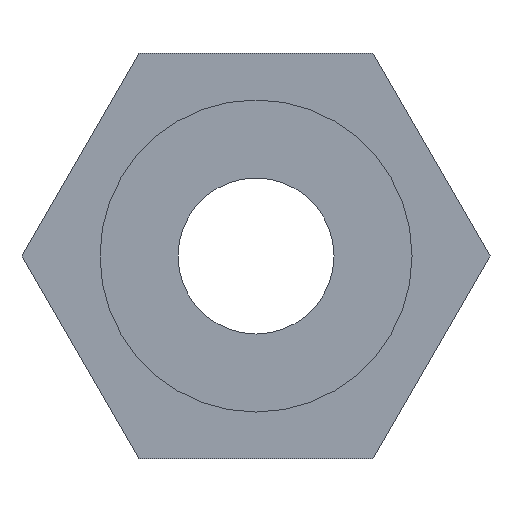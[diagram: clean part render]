
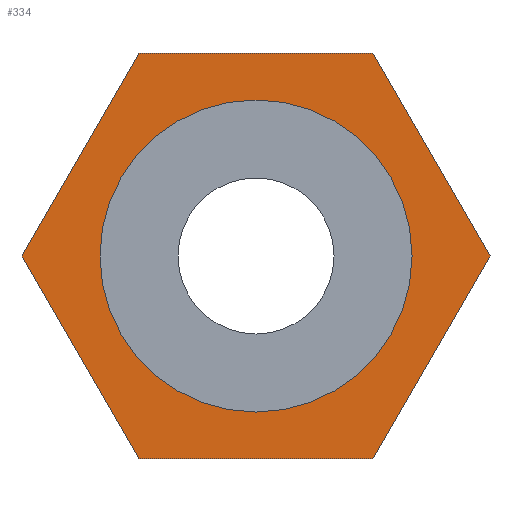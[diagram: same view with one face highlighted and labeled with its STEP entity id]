
A CAD part, front view. The second image highlights one B-rep face of the part: STEP entity #334.
In plain terms, the highlighted planar face has unit normal (0, -1, 0).
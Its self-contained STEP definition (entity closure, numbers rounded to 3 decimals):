
#15=LINE('',#550,#33);
#16=LINE('',#552,#34);
#17=LINE('',#554,#35);
#18=LINE('',#556,#36);
#19=LINE('',#558,#37);
#20=LINE('',#559,#38);
#33=VECTOR('',#458,10.);
#34=VECTOR('',#459,10.);
#35=VECTOR('',#460,10.);
#36=VECTOR('',#461,10.);
#37=VECTOR('',#462,10.);
#38=VECTOR('',#463,10.);
#64=PLANE('',#382);
#87=FACE_BOUND('',#146,.T.);
#106=FACE_OUTER_BOUND('',#145,.T.);
#145=EDGE_LOOP('',(#273,#274,#275,#276,#277,#278));
#146=EDGE_LOOP('',(#279));
#176=CIRCLE('',#383,3.);
#194=VERTEX_POINT('',#548);
#195=VERTEX_POINT('',#549);
#196=VERTEX_POINT('',#551);
#197=VERTEX_POINT('',#553);
#198=VERTEX_POINT('',#555);
#199=VERTEX_POINT('',#557);
#200=VERTEX_POINT('',#560);
#224=EDGE_CURVE('',#194,#195,#15,.T.);
#225=EDGE_CURVE('',#195,#196,#16,.T.);
#226=EDGE_CURVE('',#196,#197,#17,.T.);
#227=EDGE_CURVE('',#197,#198,#18,.T.);
#228=EDGE_CURVE('',#198,#199,#19,.T.);
#229=EDGE_CURVE('',#199,#194,#20,.T.);
#230=EDGE_CURVE('',#200,#200,#176,.T.);
#273=ORIENTED_EDGE('',*,*,#224,.T.);
#274=ORIENTED_EDGE('',*,*,#225,.T.);
#275=ORIENTED_EDGE('',*,*,#226,.T.);
#276=ORIENTED_EDGE('',*,*,#227,.T.);
#277=ORIENTED_EDGE('',*,*,#228,.T.);
#278=ORIENTED_EDGE('',*,*,#229,.T.);
#279=ORIENTED_EDGE('',*,*,#230,.T.);
#334=ADVANCED_FACE('',(#106,#87),#64,.F.);
#382=AXIS2_PLACEMENT_3D('',#547,#456,#457);
#383=AXIS2_PLACEMENT_3D('',#561,#464,#465);
#456=DIRECTION('center_axis',(0.,1.,0.));
#457=DIRECTION('ref_axis',(0.,0.,1.));
#458=DIRECTION('',(0.5,0.,-0.866));
#459=DIRECTION('',(1.,0.,0.));
#460=DIRECTION('',(0.5,0.,0.866));
#461=DIRECTION('',(-0.5,0.,0.866));
#462=DIRECTION('',(-1.,0.,0.));
#463=DIRECTION('',(-0.5,0.,-0.866));
#464=DIRECTION('center_axis',(0.,1.,0.));
#465=DIRECTION('ref_axis',(1.,0.,0.));
#547=CARTESIAN_POINT('Origin',(0.,3.,0.));
#548=CARTESIAN_POINT('',(-4.5,3.,0.));
#549=CARTESIAN_POINT('',(-2.25,3.,-3.897));
#550=CARTESIAN_POINT('',(-4.5,3.,0.));
#551=CARTESIAN_POINT('',(2.25,3.,-3.897));
#552=CARTESIAN_POINT('',(-2.25,3.,-3.897));
#553=CARTESIAN_POINT('',(4.5,3.,0.));
#554=CARTESIAN_POINT('',(2.25,3.,-3.897));
#555=CARTESIAN_POINT('',(2.25,3.,3.897));
#556=CARTESIAN_POINT('',(4.5,3.,0.));
#557=CARTESIAN_POINT('',(-2.25,3.,3.897));
#558=CARTESIAN_POINT('',(2.25,3.,3.897));
#559=CARTESIAN_POINT('',(-2.25,3.,3.897));
#560=CARTESIAN_POINT('',(-3.,3.,0.));
#561=CARTESIAN_POINT('Origin',(0.,3.,0.));
